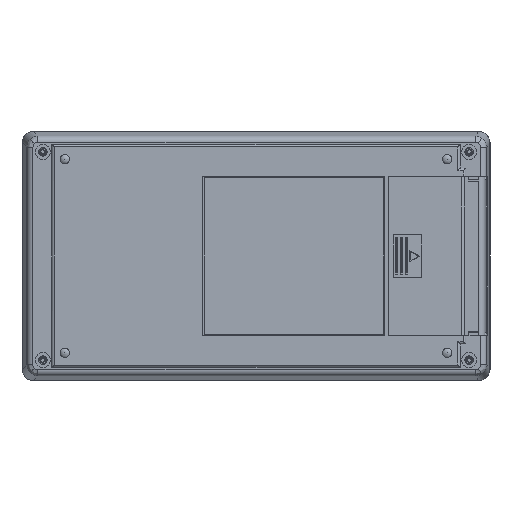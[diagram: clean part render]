
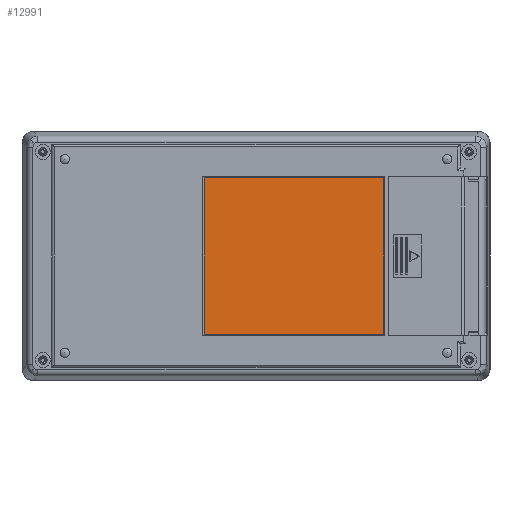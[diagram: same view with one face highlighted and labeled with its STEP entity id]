
A CAD part, front view. The second image highlights one B-rep face of the part: STEP entity #12991.
In plain terms, the highlighted planar face has unit normal (0, -1, 0).
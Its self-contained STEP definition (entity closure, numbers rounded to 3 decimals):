
#398 = DIRECTION ( 'NONE',  ( -1., 0., 0. ) ) ;
#964 = DIRECTION ( 'NONE',  ( 1., 0., 0. ) ) ;
#1326 = VECTOR ( 'NONE', #25864, 1000. ) ;
#1391 = DIRECTION ( 'NONE',  ( 0., 0., 1. ) ) ;
#1489 = VERTEX_POINT ( 'NONE', #4215 ) ;
#1627 = ORIENTED_EDGE ( 'NONE', *, *, #13241, .T. ) ;
#4215 = CARTESIAN_POINT ( 'NONE',  ( 52.1, -14.3, 32. ) ) ;
#5276 = VERTEX_POINT ( 'NONE', #17623 ) ;
#5371 = LINE ( 'NONE', #21586, #20931 ) ;
#6759 = ORIENTED_EDGE ( 'NONE', *, *, #22063, .T. ) ;
#7062 = FACE_OUTER_BOUND ( 'NONE', #19381, .T. ) ;
#8136 = DIRECTION ( 'NONE',  ( 0., 0., -1. ) ) ;
#9834 = CARTESIAN_POINT ( 'NONE',  ( 52.1, -14.3, 32. ) ) ;
#10514 = VERTEX_POINT ( 'NONE', #19624 ) ;
#12323 = VECTOR ( 'NONE', #1391, 1000. ) ;
#12991 = ADVANCED_FACE ( 'NONE', ( #7062 ), #18602, .T. ) ;
#13241 = EDGE_CURVE ( 'NONE', #10514, #19942, #17590, .T. ) ;
#13341 = VECTOR ( 'NONE', #964, 1000. ) ;
#15345 = CARTESIAN_POINT ( 'NONE',  ( -21.2, -14.3, 32. ) ) ;
#17590 = LINE ( 'NONE', #15345, #1326 ) ;
#17623 = CARTESIAN_POINT ( 'NONE',  ( 52.1, -14.3, -32. ) ) ;
#17784 = CARTESIAN_POINT ( 'NONE',  ( -21.2, -14.3, -32. ) ) ;
#17968 = LINE ( 'NONE', #9834, #12323 ) ;
#18080 = EDGE_CURVE ( 'NONE', #19942, #5276, #18988, .T. ) ;
#18602 = PLANE ( 'NONE',  #26712 ) ;
#18682 = CARTESIAN_POINT ( 'NONE',  ( -95.3, -14.3, -50.7 ) ) ;
#18725 = EDGE_CURVE ( 'NONE', #5276, #1489, #17968, .T. ) ;
#18988 = LINE ( 'NONE', #26296, #13341 ) ;
#19381 = EDGE_LOOP ( 'NONE', ( #19786, #22780, #6759, #1627 ) ) ;
#19624 = CARTESIAN_POINT ( 'NONE',  ( -21.2, -14.3, 32. ) ) ;
#19786 = ORIENTED_EDGE ( 'NONE', *, *, #18080, .T. ) ;
#19942 = VERTEX_POINT ( 'NONE', #17784 ) ;
#20805 = DIRECTION ( 'NONE',  ( 0., -1., 0. ) ) ;
#20931 = VECTOR ( 'NONE', #398, 1000. ) ;
#21586 = CARTESIAN_POINT ( 'NONE',  ( 52.1, -14.3, 32. ) ) ;
#22063 = EDGE_CURVE ( 'NONE', #1489, #10514, #5371, .T. ) ;
#22780 = ORIENTED_EDGE ( 'NONE', *, *, #18725, .T. ) ;
#25864 = DIRECTION ( 'NONE',  ( 0., 0., -1. ) ) ;
#26296 = CARTESIAN_POINT ( 'NONE',  ( 52.1, -14.3, -32. ) ) ;
#26712 = AXIS2_PLACEMENT_3D ( 'NONE', #18682, #20805, #8136 ) ;
